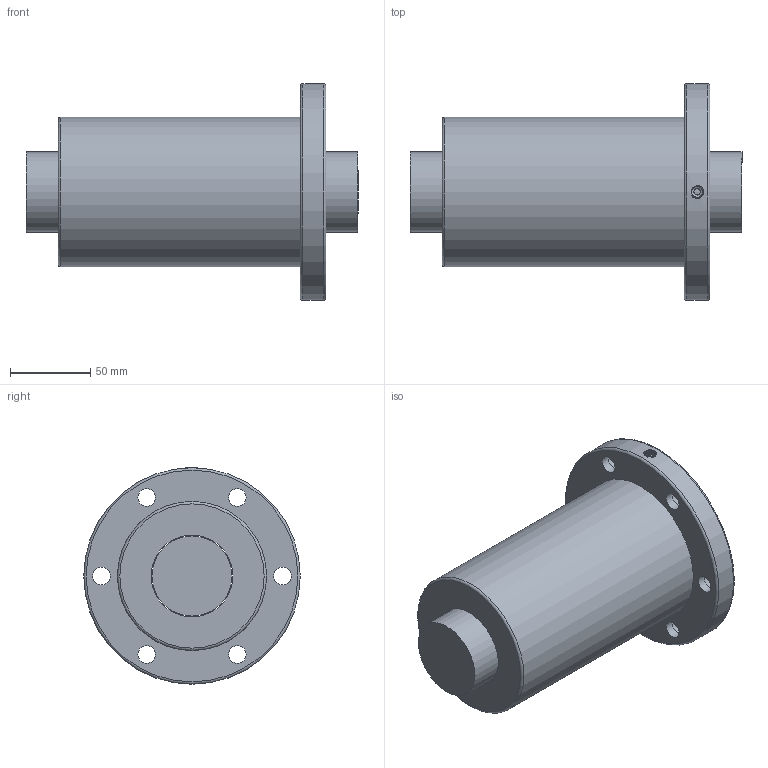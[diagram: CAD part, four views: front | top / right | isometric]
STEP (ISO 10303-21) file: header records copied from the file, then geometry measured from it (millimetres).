
FILE_DESCRIPTION(/* description */ ('Unknown','CAx-IF Rec.Pracs.---Representation and Presentation of Product Manufacturing Information (PMI)---4.0---2014-10-13','CAx-IF Rec.Pracs.---3D Tessellated Geometry---0.4---2014-09-14','2;1'),/* implementation_level */ '2;1');
FILE_NAME(/* name */ 'OFV05010-4.8',/* time_stamp */ '2020-12-08T11:55:45+08:00',/* author */ ('Unknown'),/* organization */ ('Unknown'),/* preprocessor_version */ 'ST-DEVELOPER v16.7',/* originating_system */ 'Solid Edge',/* authorisation */ 'Unknown');
FILE_SCHEMA (('AP242_MANAGED_MODEL_BASED_3D_ENGINEERING_MIM_LF { 1 0 10303 442 1 1 4 }'));
Length unit declared in the file: millimetre
Products named in the file (1): OFV05010-4.8
Bounding box: 207 x 135 x 135 mm (x, y, z)
Volume: 1299975.5 mm3; surface area: 142128.4 mm2
Topology: 2 solids, 2 shells, 38 faces, 75 edges, 48 vertices
Faces by surface type: cylinder 20, plane 12, torus 3, bspline 2, cone 1
Full cylindrical faces by diameter (mm): 4 x1, 6.917 x1, 11 x6, 17.5 x6, 50 x1, 51 x1, 93 x1, 135 x1
Entity records: 2798 total; most frequent: CARTESIAN_POINT 1996, DIRECTION 160, ORIENTED_EDGE 102, EDGE_LOOP 83, FACE_BOUND 83, AXIS2_PLACEMENT_3D 81, EDGE_CURVE 51, VERTEX_POINT 46
